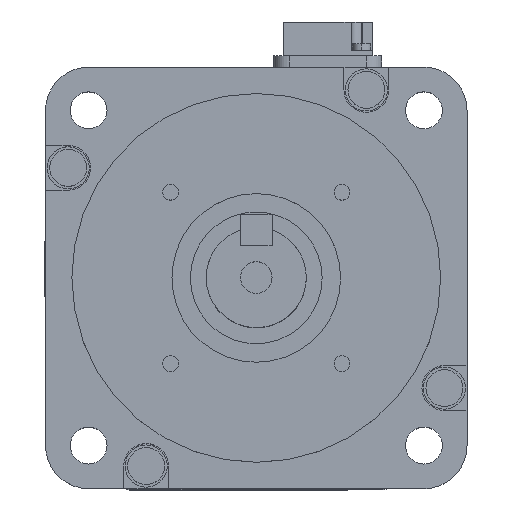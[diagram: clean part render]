
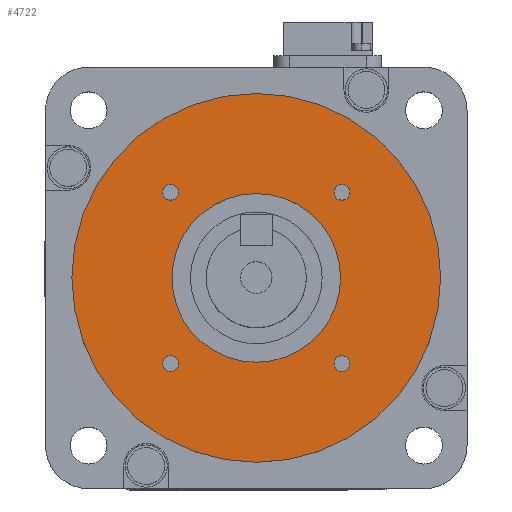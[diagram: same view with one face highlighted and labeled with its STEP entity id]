
A CAD part, top view. The second image highlights one B-rep face of the part: STEP entity #4722.
In plain terms, the highlighted planar face has unit normal (0, 0, 1).
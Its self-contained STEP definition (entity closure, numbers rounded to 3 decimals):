
#4 = VERTEX_POINT ( 'NONE', #8567 ) ;
#5 = EDGE_CURVE ( 'NONE', #6, #4, #8566, .T. ) ;
#6 = VERTEX_POINT ( 'NONE', #8561 ) ;
#8 = VERTEX_POINT ( 'NONE', #8560 ) ;
#15 = VERTEX_POINT ( 'NONE', #8615 ) ;
#22 = VERTEX_POINT ( 'NONE', #8598 ) ;
#23 = EDGE_CURVE ( 'NONE', #2985, #15, #8597, .T. ) ;
#234 = VERTEX_POINT ( 'NONE', #9026 ) ;
#235 = EDGE_CURVE ( 'NONE', #234, #236, #9024, .T. ) ;
#236 = VERTEX_POINT ( 'NONE', #9019 ) ;
#1804 = VERTEX_POINT ( 'NONE', #9058 ) ;
#2029 = VERTEX_POINT ( 'NONE', #9052 ) ;
#2335 = EDGE_CURVE ( 'NONE', #1804, #2029, #9051, .T. ) ;
#2985 = VERTEX_POINT ( 'NONE', #9608 ) ;
#2988 = VERTEX_POINT ( 'NONE', #9606 ) ;
#3003 = EDGE_CURVE ( 'NONE', #8, #2988, #9585, .T. ) ;
#3018 = VERTEX_POINT ( 'NONE', #9619 ) ;
#3019 = EDGE_CURVE ( 'NONE', #22, #3018, #9617, .T. ) ;
#4653 = ORIENTED_EDGE ( 'NONE', *, *, #23, .F. ) ;
#4654 = EDGE_LOOP ( 'NONE', ( #4707, #4709 ) ) ;
#4693 = ORIENTED_EDGE ( 'NONE', *, *, #2335, .F. ) ;
#4694 = ORIENTED_EDGE ( 'NONE', *, *, #4695, .F. ) ;
#4695 = EDGE_CURVE ( 'NONE', #2029, #1804, #12735, .T. ) ;
#4707 = ORIENTED_EDGE ( 'NONE', *, *, #4708, .F. ) ;
#4708 = EDGE_CURVE ( 'NONE', #2988, #8, #12779, .T. ) ;
#4709 = ORIENTED_EDGE ( 'NONE', *, *, #3003, .F. ) ;
#4710 = EDGE_LOOP ( 'NONE', ( #4711, #4713 ) ) ;
#4711 = ORIENTED_EDGE ( 'NONE', *, *, #4712, .F. ) ;
#4712 = EDGE_CURVE ( 'NONE', #3018, #22, #12774, .T. ) ;
#4713 = ORIENTED_EDGE ( 'NONE', *, *, #3019, .F. ) ;
#4714 = EDGE_LOOP ( 'NONE', ( #4715, #4717 ) ) ;
#4715 = ORIENTED_EDGE ( 'NONE', *, *, #4716, .T. ) ;
#4716 = EDGE_CURVE ( 'NONE', #236, #234, #12769, .T. ) ;
#4717 = ORIENTED_EDGE ( 'NONE', *, *, #235, .T. ) ;
#4718 = EDGE_LOOP ( 'NONE', ( #4693, #4694 ) ) ;
#4722 = ADVANCED_FACE ( 'NONE', ( #12764, #12763, #12762, #12761, #12760, #12759 ), #12758, .T. ) ;
#4723 = EDGE_LOOP ( 'NONE', ( #4724, #4726 ) ) ;
#4724 = ORIENTED_EDGE ( 'NONE', *, *, #4725, .F. ) ;
#4725 = EDGE_CURVE ( 'NONE', #4, #6, #12753, .T. ) ;
#4726 = ORIENTED_EDGE ( 'NONE', *, *, #5, .F. ) ;
#4727 = EDGE_LOOP ( 'NONE', ( #4728, #4653 ) ) ;
#4728 = ORIENTED_EDGE ( 'NONE', *, *, #4729, .F. ) ;
#4729 = EDGE_CURVE ( 'NONE', #15, #2985, #12814, .T. ) ;
#8560 = CARTESIAN_POINT ( 'NONE',  ( -17.763, 16.263, 3. ) ) ;
#8561 = CARTESIAN_POINT ( 'NONE',  ( 14.763, -16.263, 3. ) ) ;
#8562 = DIRECTION ( 'NONE',  ( 0., -1., 0. ) ) ;
#8563 = DIRECTION ( 'NONE',  ( 0., 0., 1. ) ) ;
#8564 = CARTESIAN_POINT ( 'NONE',  ( 16.263, -16.263, 3. ) ) ;
#8565 = AXIS2_PLACEMENT_3D ( 'NONE', #8564, #8563, #8562 ) ;
#8566 = CIRCLE ( 'NONE', #8565, 1.5 ) ;
#8567 = CARTESIAN_POINT ( 'NONE',  ( 17.763, -16.263, 3. ) ) ;
#8593 = DIRECTION ( 'NONE',  ( -1., 0., 0. ) ) ;
#8594 = DIRECTION ( 'NONE',  ( 0., 0., 1. ) ) ;
#8595 = CARTESIAN_POINT ( 'NONE',  ( -16.263, -16.263, 3. ) ) ;
#8596 = AXIS2_PLACEMENT_3D ( 'NONE', #8595, #8594, #8593 ) ;
#8597 = CIRCLE ( 'NONE', #8596, 1.5 ) ;
#8598 = CARTESIAN_POINT ( 'NONE',  ( 14.763, 16.263, 3. ) ) ;
#8615 = CARTESIAN_POINT ( 'NONE',  ( -14.763, -16.263, 3. ) ) ;
#9019 = CARTESIAN_POINT ( 'NONE',  ( -16., 0., 3. ) ) ;
#9020 = DIRECTION ( 'NONE',  ( -1., 0., 0. ) ) ;
#9021 = DIRECTION ( 'NONE',  ( 0., 0., -1. ) ) ;
#9022 = CARTESIAN_POINT ( 'NONE',  ( 0., 0., 3. ) ) ;
#9023 = AXIS2_PLACEMENT_3D ( 'NONE', #9022, #9021, #9020 ) ;
#9024 = CIRCLE ( 'NONE', #9023, 16. ) ;
#9026 = CARTESIAN_POINT ( 'NONE',  ( 16., 0., 3. ) ) ;
#9047 = DIRECTION ( 'NONE',  ( -1., 0., 0. ) ) ;
#9048 = DIRECTION ( 'NONE',  ( 0., 0., -1. ) ) ;
#9049 = CARTESIAN_POINT ( 'NONE',  ( 0., 0., 3. ) ) ;
#9050 = AXIS2_PLACEMENT_3D ( 'NONE', #9049, #9048, #9047 ) ;
#9051 = CIRCLE ( 'NONE', #9050, 35. ) ;
#9052 = CARTESIAN_POINT ( 'NONE',  ( 35., 0., 3. ) ) ;
#9058 = CARTESIAN_POINT ( 'NONE',  ( -35., 0., 3. ) ) ;
#9363 = DIRECTION ( 'NONE',  ( 0., 0., 1. ) ) ;
#9581 = DIRECTION ( 'NONE',  ( 0., 1., 0. ) ) ;
#9582 = DIRECTION ( 'NONE',  ( 0., 0., 1. ) ) ;
#9583 = CARTESIAN_POINT ( 'NONE',  ( -16.263, 16.263, 3. ) ) ;
#9584 = AXIS2_PLACEMENT_3D ( 'NONE', #9583, #9582, #9581 ) ;
#9585 = CIRCLE ( 'NONE', #9584, 1.5 ) ;
#9606 = CARTESIAN_POINT ( 'NONE',  ( -14.763, 16.263, 3. ) ) ;
#9608 = CARTESIAN_POINT ( 'NONE',  ( -17.763, -16.263, 3. ) ) ;
#9615 = CARTESIAN_POINT ( 'NONE',  ( 16.263, 16.263, 3. ) ) ;
#9616 = AXIS2_PLACEMENT_3D ( 'NONE', #9615, #9363, #9676 ) ;
#9617 = CIRCLE ( 'NONE', #9616, 1.5 ) ;
#9619 = CARTESIAN_POINT ( 'NONE',  ( 17.763, 16.263, 3. ) ) ;
#9676 = DIRECTION ( 'NONE',  ( 1., 0., 0. ) ) ;
#12727 = DIRECTION ( 'NONE',  ( -1., 0., 0. ) ) ;
#12728 = DIRECTION ( 'NONE',  ( 0., 0., -1. ) ) ;
#12729 = CARTESIAN_POINT ( 'NONE',  ( 0., 0., 3. ) ) ;
#12730 = AXIS2_PLACEMENT_3D ( 'NONE', #12729, #12728, #12727 ) ;
#12735 = CIRCLE ( 'NONE', #12730, 35. ) ;
#12749 = DIRECTION ( 'NONE',  ( 0., -1., 0. ) ) ;
#12750 = DIRECTION ( 'NONE',  ( 0., 0., 1. ) ) ;
#12751 = CARTESIAN_POINT ( 'NONE',  ( 16.263, -16.263, 3. ) ) ;
#12752 = AXIS2_PLACEMENT_3D ( 'NONE', #12751, #12750, #12749 ) ;
#12753 = CIRCLE ( 'NONE', #12752, 1.5 ) ;
#12754 = DIRECTION ( 'NONE',  ( 1., 0., 0. ) ) ;
#12755 = DIRECTION ( 'NONE',  ( 0., 0., 1. ) ) ;
#12756 = CARTESIAN_POINT ( 'NONE',  ( 0., 35., 3. ) ) ;
#12757 = AXIS2_PLACEMENT_3D ( 'NONE', #12756, #12755, #12754 ) ;
#12758 = PLANE ( 'NONE',  #12757 ) ;
#12759 = FACE_OUTER_BOUND ( 'NONE', #4718, .T. ) ;
#12760 = FACE_BOUND ( 'NONE', #4714, .T. ) ;
#12761 = FACE_BOUND ( 'NONE', #4710, .T. ) ;
#12762 = FACE_BOUND ( 'NONE', #4654, .T. ) ;
#12763 = FACE_BOUND ( 'NONE', #4727, .T. ) ;
#12764 = FACE_BOUND ( 'NONE', #4723, .T. ) ;
#12765 = DIRECTION ( 'NONE',  ( -1., 0., 0. ) ) ;
#12766 = DIRECTION ( 'NONE',  ( 0., 0., -1. ) ) ;
#12767 = CARTESIAN_POINT ( 'NONE',  ( 0., 0., 3. ) ) ;
#12768 = AXIS2_PLACEMENT_3D ( 'NONE', #12767, #12766, #12765 ) ;
#12769 = CIRCLE ( 'NONE', #12768, 16. ) ;
#12770 = DIRECTION ( 'NONE',  ( 1., 0., 0. ) ) ;
#12771 = DIRECTION ( 'NONE',  ( 0., 0., 1. ) ) ;
#12772 = CARTESIAN_POINT ( 'NONE',  ( 16.263, 16.263, 3. ) ) ;
#12773 = AXIS2_PLACEMENT_3D ( 'NONE', #12772, #12771, #12770 ) ;
#12774 = CIRCLE ( 'NONE', #12773, 1.5 ) ;
#12775 = DIRECTION ( 'NONE',  ( 0., 1., 0. ) ) ;
#12776 = DIRECTION ( 'NONE',  ( 0., 0., 1. ) ) ;
#12777 = CARTESIAN_POINT ( 'NONE',  ( -16.263, 16.263, 3. ) ) ;
#12778 = AXIS2_PLACEMENT_3D ( 'NONE', #12777, #12776, #12775 ) ;
#12779 = CIRCLE ( 'NONE', #12778, 1.5 ) ;
#12810 = DIRECTION ( 'NONE',  ( -1., 0., 0. ) ) ;
#12811 = DIRECTION ( 'NONE',  ( 0., 0., 1. ) ) ;
#12812 = CARTESIAN_POINT ( 'NONE',  ( -16.263, -16.263, 3. ) ) ;
#12813 = AXIS2_PLACEMENT_3D ( 'NONE', #12812, #12811, #12810 ) ;
#12814 = CIRCLE ( 'NONE', #12813, 1.5 ) ;
